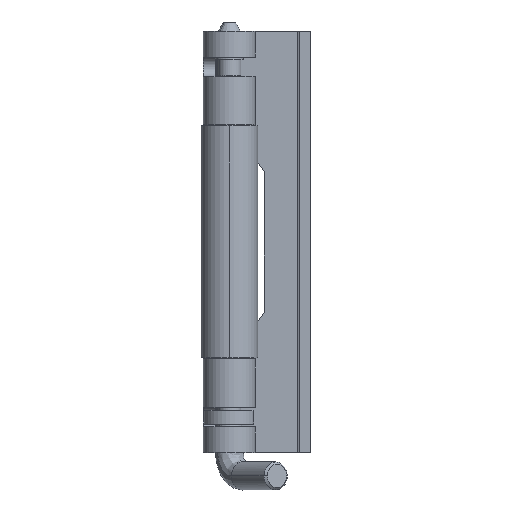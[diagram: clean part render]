
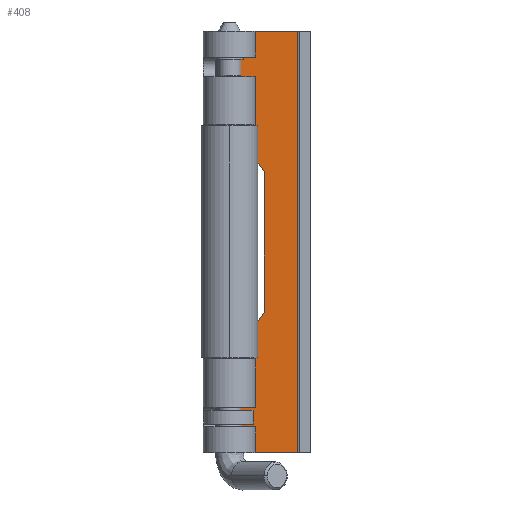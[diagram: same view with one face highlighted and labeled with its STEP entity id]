
A CAD part, front view. The second image highlights one B-rep face of the part: STEP entity #408.
In plain terms, the highlighted planar face has unit normal (0, -1, 0).
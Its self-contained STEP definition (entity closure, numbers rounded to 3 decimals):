
#281 = ORIENTED_EDGE ( 'NONE', *, *, #401, .T. ) ;
#290 = ORIENTED_EDGE ( 'NONE', *, *, #413, .F. ) ;
#291 = EDGE_CURVE ( 'NONE', #370, #403, #2066, .T. ) ;
#292 = ORIENTED_EDGE ( 'NONE', *, *, #291, .F. ) ;
#293 = VERTEX_POINT ( 'NONE', #2067 ) ;
#294 = EDGE_CURVE ( 'NONE', #371, #375, #2156, .T. ) ;
#295 = ORIENTED_EDGE ( 'NONE', *, *, #294, .T. ) ;
#296 = EDGE_CURVE ( 'NONE', #375, #293, #2078, .T. ) ;
#297 = ORIENTED_EDGE ( 'NONE', *, *, #382, .T. ) ;
#298 = ORIENTED_EDGE ( 'NONE', *, *, #296, .T. ) ;
#348 = EDGE_LOOP ( 'NONE', ( #281, #412, #404, #290, #292, #406, #295, #298, #297, #416 ) ) ;
#349 = EDGE_CURVE ( 'NONE', #539, #377, #2413, .T. ) ;
#370 = VERTEX_POINT ( 'NONE', #2370 ) ;
#371 = VERTEX_POINT ( 'NONE', #2353 ) ;
#373 = EDGE_CURVE ( 'NONE', #370, #371, #2360, .T. ) ;
#375 = VERTEX_POINT ( 'NONE', #2404 ) ;
#376 = VERTEX_POINT ( 'NONE', #2399 ) ;
#377 = VERTEX_POINT ( 'NONE', #2398 ) ;
#382 = EDGE_CURVE ( 'NONE', #293, #410, #2388, .T. ) ;
#401 = EDGE_CURVE ( 'NONE', #376, #539, #2322, .T. ) ;
#403 = VERTEX_POINT ( 'NONE', #2323 ) ;
#404 = ORIENTED_EDGE ( 'NONE', *, *, #407, .T. ) ;
#406 = ORIENTED_EDGE ( 'NONE', *, *, #373, .T. ) ;
#407 = EDGE_CURVE ( 'NONE', #377, #411, #2460, .T. ) ;
#408 = ADVANCED_FACE ( 'NONE', ( #2458 ), #2453, .F. ) ;
#409 = EDGE_CURVE ( 'NONE', #410, #376, #2451, .T. ) ;
#410 = VERTEX_POINT ( 'NONE', #2456 ) ;
#411 = VERTEX_POINT ( 'NONE', #2452 ) ;
#412 = ORIENTED_EDGE ( 'NONE', *, *, #349, .T. ) ;
#413 = EDGE_CURVE ( 'NONE', #403, #411, #2445, .T. ) ;
#416 = ORIENTED_EDGE ( 'NONE', *, *, #409, .T. ) ;
#539 = VERTEX_POINT ( 'NONE', #2587 ) ;
#2063 = DIRECTION ( 'NONE',  ( 1., 0., 0. ) ) ;
#2064 = VECTOR ( 'NONE', #2063, 1000. ) ;
#2065 = CARTESIAN_POINT ( 'NONE',  ( -5.55, 19.95, 90. ) ) ;
#2066 = LINE ( 'NONE', #2065, #2064 ) ;
#2067 = CARTESIAN_POINT ( 'NONE',  ( 7.45, 19.95, 60. ) ) ;
#2077 = CARTESIAN_POINT ( 'NONE',  ( -10.919, 19.95, 86.242 ) ) ;
#2078 = LINE ( 'NONE', #2077, #2151 ) ;
#2150 = DIRECTION ( 'NONE',  ( 0.573, 0., -0.819 ) ) ;
#2151 = VECTOR ( 'NONE', #2150, 1000. ) ;
#2153 = DIRECTION ( 'NONE',  ( 1., 0., 0. ) ) ;
#2154 = VECTOR ( 'NONE', #2153, 1000. ) ;
#2155 = CARTESIAN_POINT ( 'NONE',  ( -5.55, 19.95, 70. ) ) ;
#2156 = LINE ( 'NONE', #2155, #2154 ) ;
#2285 = DIRECTION ( 'NONE',  ( 0., 0., -1. ) ) ;
#2286 = VECTOR ( 'NONE', #2285, 1000. ) ;
#2321 = CARTESIAN_POINT ( 'NONE',  ( -5.55, 19.95, 20. ) ) ;
#2322 = LINE ( 'NONE', #2321, #2463 ) ;
#2323 = CARTESIAN_POINT ( 'NONE',  ( 14.65, 19.95, 90. ) ) ;
#2341 = AXIS2_PLACEMENT_3D ( 'NONE', #2457, #2461, #2448 ) ;
#2353 = CARTESIAN_POINT ( 'NONE',  ( -2.75, 19.95, 70. ) ) ;
#2360 = LINE ( 'NONE', #2402, #2401 ) ;
#2370 = CARTESIAN_POINT ( 'NONE',  ( -2.75, 19.95, 90. ) ) ;
#2374 = DIRECTION ( 'NONE',  ( 0., 0., -1. ) ) ;
#2375 = VECTOR ( 'NONE', #2374, 1000. ) ;
#2376 = CARTESIAN_POINT ( 'NONE',  ( -2.75, 19.95, 90. ) ) ;
#2379 = DIRECTION ( 'NONE',  ( 0., 0., -1. ) ) ;
#2380 = VECTOR ( 'NONE', #2379, 1000. ) ;
#2381 = CARTESIAN_POINT ( 'NONE',  ( 7.45, 19.95, 90. ) ) ;
#2388 = LINE ( 'NONE', #2381, #2380 ) ;
#2398 = CARTESIAN_POINT ( 'NONE',  ( -2.75, 19.95, 0. ) ) ;
#2399 = CARTESIAN_POINT ( 'NONE',  ( 0.45, 19.95, 20. ) ) ;
#2400 = DIRECTION ( 'NONE',  ( 0., 0., -1. ) ) ;
#2401 = VECTOR ( 'NONE', #2400, 1000. ) ;
#2402 = CARTESIAN_POINT ( 'NONE',  ( -2.75, 19.95, 90. ) ) ;
#2404 = CARTESIAN_POINT ( 'NONE',  ( 0.45, 19.95, 70. ) ) ;
#2413 = LINE ( 'NONE', #2376, #2375 ) ;
#2444 = CARTESIAN_POINT ( 'NONE',  ( 14.65, 19.95, 90. ) ) ;
#2445 = LINE ( 'NONE', #2444, #2286 ) ;
#2446 = DIRECTION ( 'NONE',  ( -0.573, 0., -0.819 ) ) ;
#2447 = VECTOR ( 'NONE', #2446, 1000. ) ;
#2448 = DIRECTION ( 'NONE',  ( 0., 0., 1. ) ) ;
#2450 = CARTESIAN_POINT ( 'NONE',  ( 31.363, 19.95, 64.161 ) ) ;
#2451 = LINE ( 'NONE', #2450, #2447 ) ;
#2452 = CARTESIAN_POINT ( 'NONE',  ( 14.65, 19.95, 0. ) ) ;
#2453 = PLANE ( 'NONE',  #2341 ) ;
#2454 = DIRECTION ( 'NONE',  ( 1., 0., 0. ) ) ;
#2455 = VECTOR ( 'NONE', #2454, 1000. ) ;
#2456 = CARTESIAN_POINT ( 'NONE',  ( 7.45, 19.95, 30. ) ) ;
#2457 = CARTESIAN_POINT ( 'NONE',  ( -5.55, 19.95, 90. ) ) ;
#2458 = FACE_OUTER_BOUND ( 'NONE', #348, .T. ) ;
#2459 = CARTESIAN_POINT ( 'NONE',  ( -5.55, 19.95, 0. ) ) ;
#2460 = LINE ( 'NONE', #2459, #2455 ) ;
#2461 = DIRECTION ( 'NONE',  ( 0., 1., 0. ) ) ;
#2462 = DIRECTION ( 'NONE',  ( -1., 0., 0. ) ) ;
#2463 = VECTOR ( 'NONE', #2462, 1000. ) ;
#2587 = CARTESIAN_POINT ( 'NONE',  ( -2.75, 19.95, 20. ) ) ;
